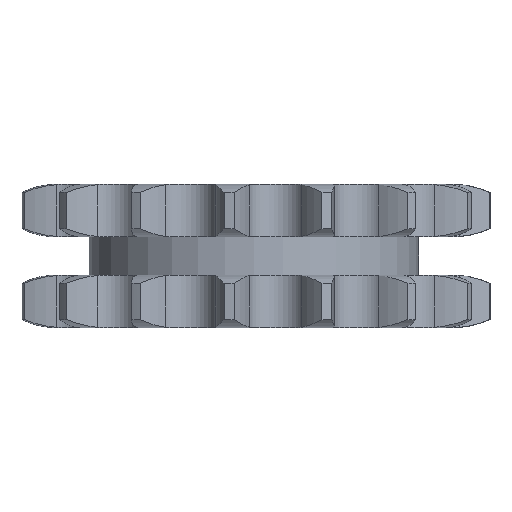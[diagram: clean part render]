
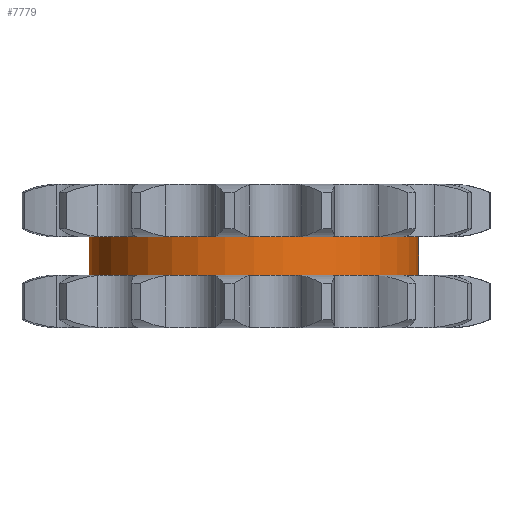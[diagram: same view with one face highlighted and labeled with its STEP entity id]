
A CAD part, left-side view. The second image highlights one B-rep face of the part: STEP entity #7779.
In plain terms, the highlighted cylindrical face has radius 34.813 mm (diameter 69.625 mm), a partial arc.
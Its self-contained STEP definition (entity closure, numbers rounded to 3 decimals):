
#1968=DIRECTION('',(0.,0.,-1.));
#1969=VECTOR('',#1968,8.1);
#1970=CARTESIAN_POINT('',(0.,34.813,4.05));
#1971=LINE('',#1970,#1969);
#1975=CARTESIAN_POINT('',(0.,0.,4.05));
#1976=DIRECTION('',(0.,0.,1.));
#1977=DIRECTION('',(0.,1.,0.));
#1978=AXIS2_PLACEMENT_3D('',#1975,#1976,#1977);
#1983=DIRECTION('',(0.,0.,-1.));
#1984=VECTOR('',#1983,8.1);
#1985=CARTESIAN_POINT('',(0.,-34.813,4.05));
#1986=LINE('',#1985,#1984);
#1990=CARTESIAN_POINT('',(0.,0.,-4.05));
#1991=DIRECTION('',(0.,0.,1.));
#1992=DIRECTION('',(0.,1.,0.));
#1993=AXIS2_PLACEMENT_3D('',#1990,#1991,#1992);
#5399=CARTESIAN_POINT('',(0.,34.813,4.05));
#5400=CARTESIAN_POINT('',(0.,34.813,-4.05));
#5401=VERTEX_POINT('',#5399);
#5402=VERTEX_POINT('',#5400);
#5403=CARTESIAN_POINT('',(0.,-34.813,4.05));
#5404=CARTESIAN_POINT('',(0.,-34.813,-4.05));
#5405=VERTEX_POINT('',#5403);
#5406=VERTEX_POINT('',#5404);
#7767=CARTESIAN_POINT('',(0.,0.,4.455));
#7768=DIRECTION('',(0.,0.,-1.));
#7769=DIRECTION('',(0.,-1.,0.));
#7770=AXIS2_PLACEMENT_3D('',#7767,#7768,#7769);
#7771=CYLINDRICAL_SURFACE('',#7770,34.813);
#7772=ORIENTED_EDGE('',*,*,#7757,.F.);
#7773=ORIENTED_EDGE('',*,*,#7747,.T.);
#7774=ORIENTED_EDGE('',*,*,#7761,.T.);
#7776=ORIENTED_EDGE('',*,*,#7775,.F.);
#7777=EDGE_LOOP('',(#7772,#7773,#7774,#7776));
#7778=FACE_OUTER_BOUND('',#7777,.F.);
#7779=ADVANCED_FACE('',(#7778),#7771,.T.);
#1979=CIRCLE('',#1978,34.813);
#1994=CIRCLE('',#1993,34.813);
#7747=EDGE_CURVE('',#5401,#5405,#1979,.T.);
#7757=EDGE_CURVE('',#5401,#5402,#1971,.T.);
#7761=EDGE_CURVE('',#5405,#5406,#1986,.T.);
#7775=EDGE_CURVE('',#5402,#5406,#1994,.T.);
